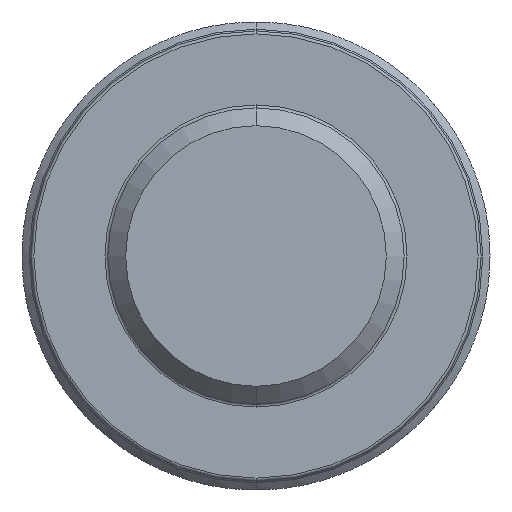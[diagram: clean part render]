
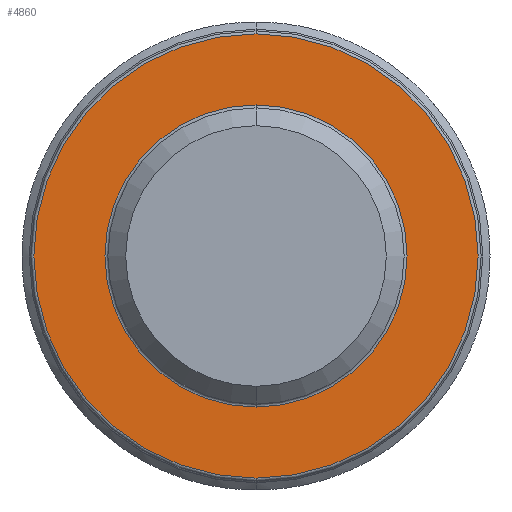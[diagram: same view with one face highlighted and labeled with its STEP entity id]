
A CAD part, front view. The second image highlights one B-rep face of the part: STEP entity #4860.
In plain terms, the highlighted planar face has unit normal (0, -1, 0).
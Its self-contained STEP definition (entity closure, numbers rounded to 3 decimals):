
#252 = ORIENTED_EDGE ( 'NONE', *, *, #3002, .T. ) ;
#519 = ORIENTED_EDGE ( 'NONE', *, *, #1385, .T. ) ;
#528 = EDGE_CURVE ( 'NONE', #3610, #7732, #6829, .T. ) ;
#722 = EDGE_LOOP ( 'NONE', ( #252, #5311 ) ) ;
#852 = DIRECTION ( 'NONE',  ( 0., 1., 0. ) ) ;
#881 = CIRCLE ( 'NONE', #2514, 5.1 ) ;
#1019 = DIRECTION ( 'NONE',  ( 0., -1., 0. ) ) ;
#1094 = CARTESIAN_POINT ( 'NONE',  ( 0., -10., 5.1 ) ) ;
#1385 = EDGE_CURVE ( 'NONE', #4415, #1684, #881, .T. ) ;
#1468 = CIRCLE ( 'NONE', #5248, 7.5 ) ;
#1486 = EDGE_CURVE ( 'NONE', #1684, #4415, #3058, .T. ) ;
#1684 = VERTEX_POINT ( 'NONE', #1094 ) ;
#1928 = CARTESIAN_POINT ( 'NONE',  ( 0., -10., -7.5 ) ) ;
#1965 = DIRECTION ( 'NONE',  ( 0., 0., -1. ) ) ;
#2210 = CARTESIAN_POINT ( 'NONE',  ( 5., -10., 0. ) ) ;
#2514 = AXIS2_PLACEMENT_3D ( 'NONE', #5134, #852, #1965 ) ;
#2820 = CARTESIAN_POINT ( 'NONE',  ( 0., -10., 0. ) ) ;
#3002 = EDGE_CURVE ( 'NONE', #7732, #3610, #1468, .T. ) ;
#3058 = CIRCLE ( 'NONE', #6273, 5.1 ) ;
#3610 = VERTEX_POINT ( 'NONE', #5568 ) ;
#3795 = AXIS2_PLACEMENT_3D ( 'NONE', #2210, #7888, #6750 ) ;
#4102 = DIRECTION ( 'NONE',  ( 0., 0., -1. ) ) ;
#4415 = VERTEX_POINT ( 'NONE', #7215 ) ;
#4621 = DIRECTION ( 'NONE',  ( 0., 1., 0. ) ) ;
#4860 = ADVANCED_FACE ( 'NONE', ( #6121, #7426 ), #5416, .T. ) ;
#5134 = CARTESIAN_POINT ( 'NONE',  ( 0., -10., 0. ) ) ;
#5190 = ORIENTED_EDGE ( 'NONE', *, *, #1486, .T. ) ;
#5248 = AXIS2_PLACEMENT_3D ( 'NONE', #2820, #1019, #7946 ) ;
#5311 = ORIENTED_EDGE ( 'NONE', *, *, #528, .T. ) ;
#5416 = PLANE ( 'NONE',  #3795 ) ;
#5568 = CARTESIAN_POINT ( 'NONE',  ( 0., -10., 7.5 ) ) ;
#6121 = FACE_BOUND ( 'NONE', #6937, .T. ) ;
#6273 = AXIS2_PLACEMENT_3D ( 'NONE', #7723, #4621, #6593 ) ;
#6593 = DIRECTION ( 'NONE',  ( 0., 0., -1. ) ) ;
#6619 = DIRECTION ( 'NONE',  ( 0., -1., 0. ) ) ;
#6695 = CARTESIAN_POINT ( 'NONE',  ( 0., -10., 0. ) ) ;
#6750 = DIRECTION ( 'NONE',  ( 0., 0., -1. ) ) ;
#6829 = CIRCLE ( 'NONE', #7913, 7.5 ) ;
#6937 = EDGE_LOOP ( 'NONE', ( #519, #5190 ) ) ;
#7215 = CARTESIAN_POINT ( 'NONE',  ( 0., -10., -5.1 ) ) ;
#7426 = FACE_OUTER_BOUND ( 'NONE', #722, .T. ) ;
#7723 = CARTESIAN_POINT ( 'NONE',  ( 0., -10., 0. ) ) ;
#7732 = VERTEX_POINT ( 'NONE', #1928 ) ;
#7888 = DIRECTION ( 'NONE',  ( 0., -1., 0. ) ) ;
#7913 = AXIS2_PLACEMENT_3D ( 'NONE', #6695, #6619, #4102 ) ;
#7946 = DIRECTION ( 'NONE',  ( 0., 0., -1. ) ) ;
